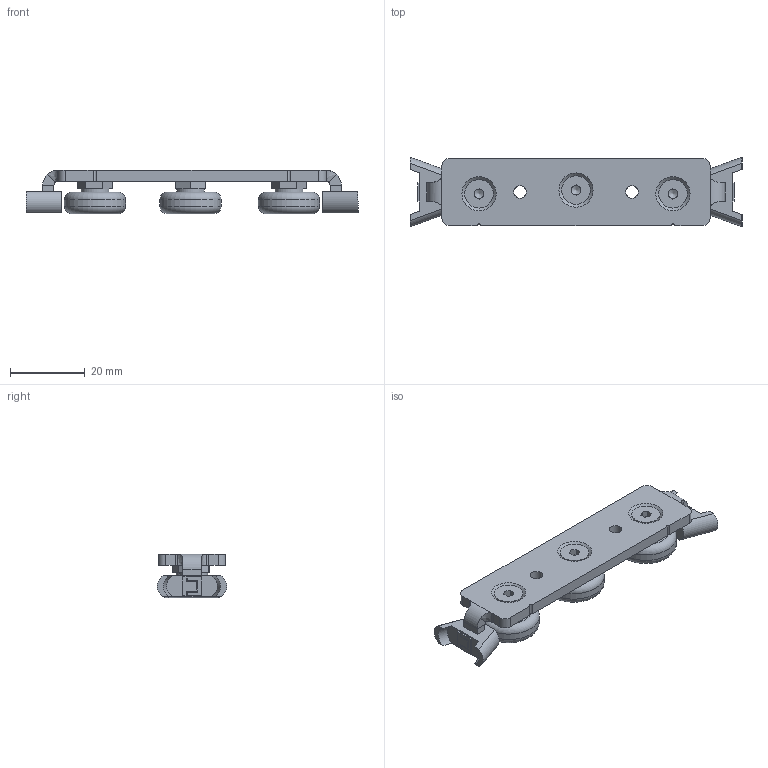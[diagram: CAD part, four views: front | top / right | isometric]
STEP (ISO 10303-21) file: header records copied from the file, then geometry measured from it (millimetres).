
FILE_DESCRIPTION (( 'STEP AP214' ), '1' );
FILE_NAME ('RLS22-3-A.STEP', '2022-02-01T12:40:47', ( '' ), ( '' ), 'SwSTEP 2.0', 'SolidWorks 2019', '' );
FILE_SCHEMA (( 'AUTOMOTIVE_DESIGN' ));
Length unit declared in the file: millimetre
Products named in the file (6): 39238; DIN 7991 - M4 x 8 (V2A)_DIN 7991 - M4 x 8 --- 5.6C_V2A; 29286_01; 40945; 42735; RLS22-3-A
Assembly tree (9 placements, depth 2):
  RLS22-3-A
    29286_01
    40945  x2
    42735
    39238  x2
    DIN 7991 - M4 x 8 (V2A)_DIN 7991 - M4 x 8 --- 5.6C_V2A  x3
Bounding box: 89 x 18.61 x 11.65 mm (x, y, z)
Volume: 8899.9 mm3; surface area: 7626.3 mm2
Topology: 9 solids, 9 shells, 225 faces, 527 edges, 330 vertices
Faces by surface type: plane 152, cylinder 34, cone 18, bspline 12, torus 9
Full cylindrical faces by diameter (mm): 3.3 x5, 4 x3, 4.5 x3, 7.5 x3, 7.64 x3, 16.4 x3
Entity records: 4307 total; most frequent: CARTESIAN_POINT 942, DIRECTION 634, ORIENTED_EDGE 586, EDGE_CURVE 293, AXIS2_PLACEMENT_3D 219, VERTEX_POINT 201, LINE 196, VECTOR 196
